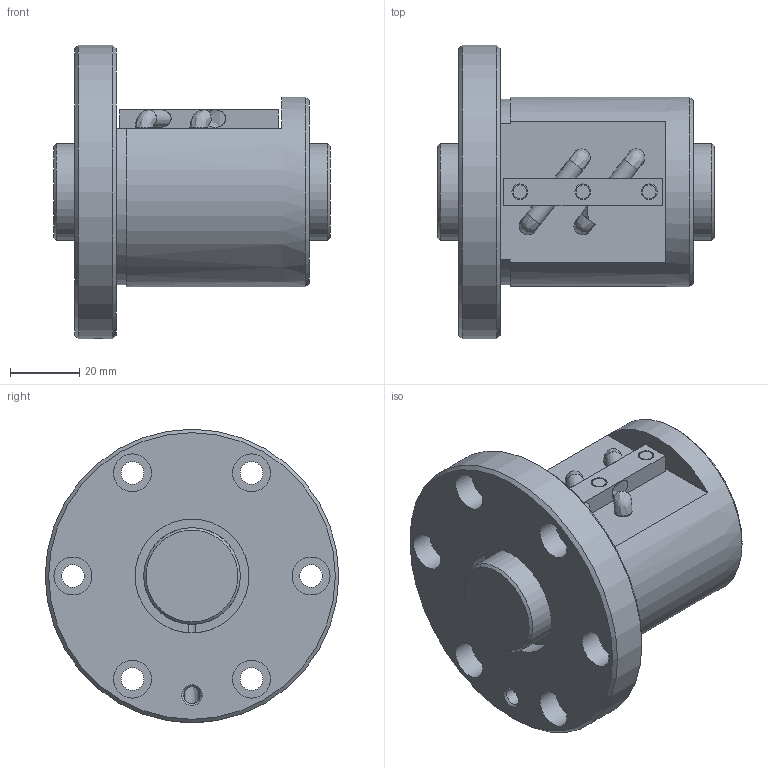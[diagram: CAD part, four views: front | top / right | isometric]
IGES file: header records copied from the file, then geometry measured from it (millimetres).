
Start section: Data from Parasolid IGES Translator 26.0.171, Copyright(c) 2006 Siemens PLM Software. All Rights Reserved.
Global section: file name: BIF2806V-5RRG0+80LC0_000.igs; native system: By Siemens PLM Incorporated; preprocessor: XPlus GENERIC/IGES 26.0.171; author: Noname; organization: Noname; date: 20240715.081818; units: millimetre
Bounding box: 80 x 85 x 85 mm (x, y, z)
Surface area: 40457.7 mm2 (no closed solid volume)
Topology: 0 solids, 0 shells, 98 faces, 444 edges, 407 vertices
Faces by surface type: revolution 57, extrusion 41
